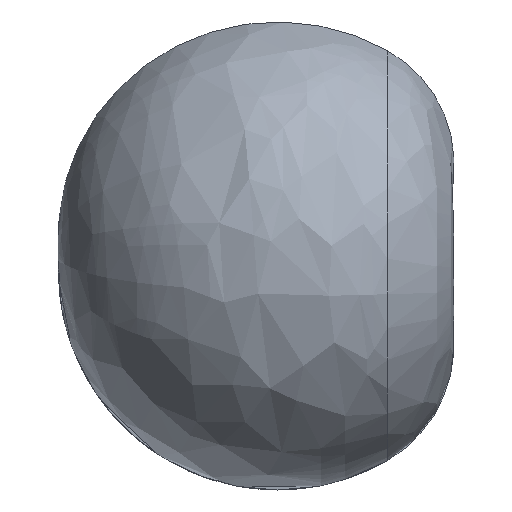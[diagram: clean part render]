
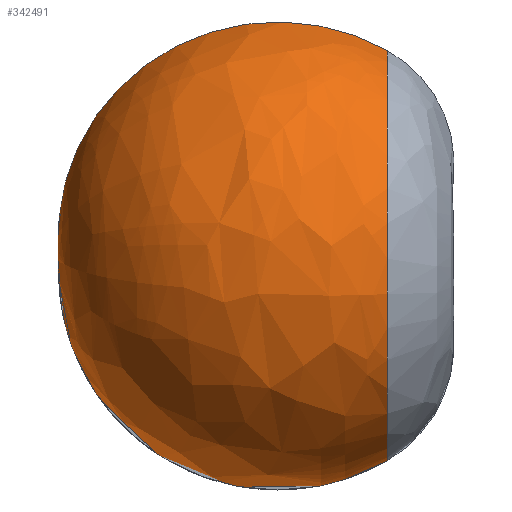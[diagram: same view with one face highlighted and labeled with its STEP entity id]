
A CAD part, left-side view. The second image highlights one B-rep face of the part: STEP entity #342491.
In plain terms, the highlighted free-form (B-spline) face has degree [3, 3] with [7, 4] control points.
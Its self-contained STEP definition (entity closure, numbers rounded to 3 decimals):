
#342341=CARTESIAN_POINT('',(-33.518,538.,145.181));
#342342=DIRECTION('',(-0.974,0.,-0.225));
#342343=DIRECTION('',(-0.195,-0.5,0.844));
#342344=AXIS2_PLACEMENT_3D('',#342341,#342342,#342343);
#342370=CARTESIAN_POINT('',(0.,-388.133,0.));
#342371=DIRECTION('',(0.,-1.,0.));
#342372=DIRECTION('',(-0.225,0.,0.974));
#342373=AXIS2_PLACEMENT_3D('',#342370,#342371,#342372);
#342390=CARTESIAN_POINT('',(33.518,538.,145.181));
#342391=DIRECTION('',(-0.974,0.,0.225));
#342392=DIRECTION('',(0.195,-0.5,0.844));
#342393=AXIS2_PLACEMENT_3D('',#342390,#342391,#342392);
#342415=CARTESIAN_POINT('',(-394.364,-388.133,
1708.178));
#342416=CARTESIAN_POINT('',(0.,2384.264,0.));
#342417=VERTEX_POINT('',#342415);
#342418=VERTEX_POINT('',#342416);
#342427=CARTESIAN_POINT('',(394.364,-388.133,
1708.178));
#342428=VERTEX_POINT('',#342427);
#342455=CARTESIAN_POINT('',(0.,2384.264,
0.));
#342456=CARTESIAN_POINT('',(-192.486,2525.38,
1737.95));
#342457=CARTESIAN_POINT('',(-292.121,1022.645,
2637.557));
#342458=CARTESIAN_POINT('',(-188.384,-457.012,
1700.919));
#342459=CARTESIAN_POINT('',(0.,2384.264,
0.));
#342460=CARTESIAN_POINT('',(-3318.464,2525.38,
1391.734));
#342461=CARTESIAN_POINT('',(-5036.186,1022.645,
2112.131));
#342462=CARTESIAN_POINT('',(-3247.758,-457.012,
1362.08));
#342463=CARTESIAN_POINT('',(0.,2384.264,
0.));
#342464=CARTESIAN_POINT('',(-3145.093,2525.38,
-1748.577));
#342465=CARTESIAN_POINT('',(-4773.073,1022.645,
-2653.685));
#342466=CARTESIAN_POINT('',(-3078.081,-457.012,
-1711.32));
#342467=CARTESIAN_POINT('',(0.,2384.264,0.));
#342468=CARTESIAN_POINT('',(0.,2525.38,
-1748.577));
#342469=CARTESIAN_POINT('',(0.,1022.645,
-2653.685));
#342470=CARTESIAN_POINT('',(0.,-457.012,
-1711.32));
#342471=CARTESIAN_POINT('',(0.,2384.264,
0.));
#342472=CARTESIAN_POINT('',(3145.093,2525.38,
-1748.577));
#342473=CARTESIAN_POINT('',(4773.073,1022.645,
-2653.685));
#342474=CARTESIAN_POINT('',(3078.081,-457.012,
-1711.32));
#342475=CARTESIAN_POINT('',(0.,2384.264,
0.));
#342476=CARTESIAN_POINT('',(3318.464,2525.38,
1391.734));
#342477=CARTESIAN_POINT('',(5036.186,1022.645,
2112.131));
#342478=CARTESIAN_POINT('',(3247.758,-457.012,
1362.08));
#342479=CARTESIAN_POINT('',(0.,2384.264,
0.));
#342480=CARTESIAN_POINT('',(192.486,2525.38,
1737.95));
#342481=CARTESIAN_POINT('',(292.121,1022.645,
2637.557));
#342482=CARTESIAN_POINT('',(188.384,-457.012,
1700.919));
#342483=(BOUNDED_SURFACE()B_SPLINE_SURFACE(3,3,((#342455,#342456,#342457,
#342458),(#342459,#342460,#342461,#342462),(#342463,#342464,#342465,#342466),(
#342467,#342468,#342469,#342470),(#342471,#342472,#342473,#342474),(#342475,
#342476,#342477,#342478),(#342479,#342480,#342481,#342482)),.UNSPECIFIED.,.F.,
.F.,.F.)B_SPLINE_SURFACE_WITH_KNOTS((4,3,4),(4,4),(0.,1.,2.),(0.,1.),
.UNSPECIFIED.)GEOMETRIC_REPRESENTATION_ITEM()RATIONAL_B_SPLINE_SURFACE(((
2.623,1.653,1.653,2.623),(
0.971,0.612,0.612,0.971),(
0.971,0.612,0.612,0.971),(
2.623,1.653,1.653,2.623),(
0.971,0.612,0.612,0.971),(
0.971,0.612,0.612,0.971),(
2.623,1.653,1.653,2.623)))REPRESENTATION_ITEM('')SURFACE());
#342484=ORIENTED_EDGE('',*,*,#342440,.F.);
#342486=ORIENTED_EDGE('',*,*,#342485,.T.);
#342488=ORIENTED_EDGE('',*,*,#342487,.T.);
#342489=EDGE_LOOP('',(#342484,#342486,#342488));
#342490=FACE_OUTER_BOUND('',#342489,.F.);
#342491=ADVANCED_FACE('',(#342490),#342483,.T.);
#342345=CIRCLE('',#342344,1852.267);
#342374=CIRCLE('',#342373,1753.11);
#342394=CIRCLE('',#342393,1852.267);
#342440=EDGE_CURVE('',#342417,#342418,#342345,.T.);
#342485=EDGE_CURVE('',#342417,#342428,#342374,.T.);
#342487=EDGE_CURVE('',#342428,#342418,#342394,.T.);
